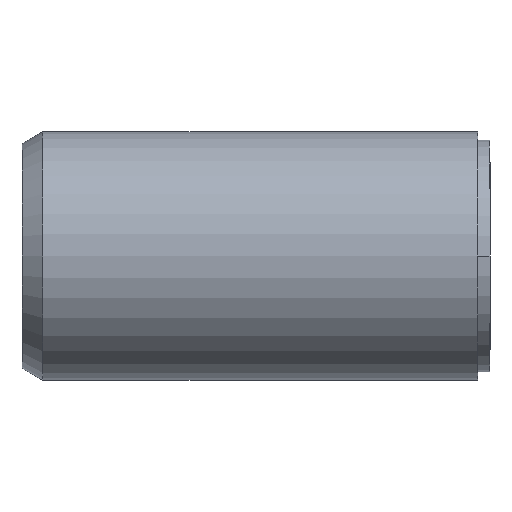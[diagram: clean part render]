
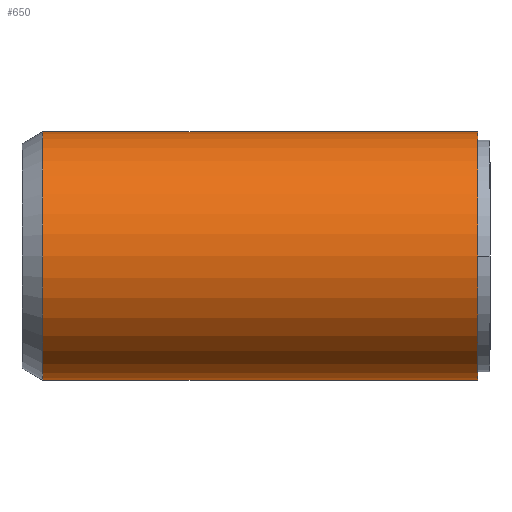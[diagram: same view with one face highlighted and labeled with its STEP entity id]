
A CAD part, front view. The second image highlights one B-rep face of the part: STEP entity #650.
In plain terms, the highlighted cylindrical face has radius 30 mm (diameter 60 mm), a partial arc.
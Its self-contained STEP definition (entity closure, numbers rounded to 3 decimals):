
#118 = EDGE_CURVE ( 'NONE', #729, #1319, #681, .T. ) ;
#278 = DIRECTION ( 'NONE',  ( 0., 0., 1. ) ) ;
#566 = DIRECTION ( 'NONE',  ( -1., 0., 0. ) ) ;
#573 = AXIS2_PLACEMENT_3D ( 'NONE', #3634, #566, #3340 ) ;
#639 = VECTOR ( 'NONE', #1216, 1000. ) ;
#646 = CARTESIAN_POINT ( 'NONE',  ( 110., 0., -30. ) ) ;
#650 = ADVANCED_FACE ( 'NONE', ( #2079 ), #3630, .T. ) ;
#681 = CIRCLE ( 'NONE', #573, 30. ) ;
#729 = VERTEX_POINT ( 'NONE', #646 ) ;
#819 = VERTEX_POINT ( 'NONE', #1863 ) ;
#935 = VERTEX_POINT ( 'NONE', #3222 ) ;
#1037 = CARTESIAN_POINT ( 'NONE',  ( 5., 0., 0. ) ) ;
#1216 = DIRECTION ( 'NONE',  ( -1., 0., 0. ) ) ;
#1274 = CARTESIAN_POINT ( 'NONE',  ( 0., 0., 30. ) ) ;
#1294 = LINE ( 'NONE', #1274, #4013 ) ;
#1319 = VERTEX_POINT ( 'NONE', #4007 ) ;
#1359 = ORIENTED_EDGE ( 'NONE', *, *, #2336, .T. ) ;
#1394 = AXIS2_PLACEMENT_3D ( 'NONE', #3072, #3050, #278 ) ;
#1532 = AXIS2_PLACEMENT_3D ( 'NONE', #1037, #2238, #3200 ) ;
#1579 = ORIENTED_EDGE ( 'NONE', *, *, #3064, .F. ) ;
#1646 = ORIENTED_EDGE ( 'NONE', *, *, #118, .T. ) ;
#1822 = EDGE_CURVE ( 'NONE', #819, #935, #3355, .T. ) ;
#1863 = CARTESIAN_POINT ( 'NONE',  ( 5., 0., 30. ) ) ;
#2079 = FACE_OUTER_BOUND ( 'NONE', #2615, .T. ) ;
#2238 = DIRECTION ( 'NONE',  ( 1., 0., 0. ) ) ;
#2336 = EDGE_CURVE ( 'NONE', #1319, #819, #1294, .T. ) ;
#2578 = DIRECTION ( 'NONE',  ( -1., 0., 0. ) ) ;
#2615 = EDGE_LOOP ( 'NONE', ( #1579, #1646, #1359, #2919 ) ) ;
#2919 = ORIENTED_EDGE ( 'NONE', *, *, #1822, .T. ) ;
#3050 = DIRECTION ( 'NONE',  ( -1., 0., 0. ) ) ;
#3064 = EDGE_CURVE ( 'NONE', #729, #935, #3670, .T. ) ;
#3072 = CARTESIAN_POINT ( 'NONE',  ( 0., 0., 0. ) ) ;
#3200 = DIRECTION ( 'NONE',  ( 0., 0., -1. ) ) ;
#3222 = CARTESIAN_POINT ( 'NONE',  ( 5., 0., -30. ) ) ;
#3340 = DIRECTION ( 'NONE',  ( 0., 0., 1. ) ) ;
#3355 = CIRCLE ( 'NONE', #1532, 30. ) ;
#3630 = CYLINDRICAL_SURFACE ( 'NONE', #1394, 30. ) ;
#3634 = CARTESIAN_POINT ( 'NONE',  ( 110., 0., 0. ) ) ;
#3670 = LINE ( 'NONE', #3710, #639 ) ;
#3710 = CARTESIAN_POINT ( 'NONE',  ( 0., 0., -30. ) ) ;
#4007 = CARTESIAN_POINT ( 'NONE',  ( 110., 0., 30. ) ) ;
#4013 = VECTOR ( 'NONE', #2578, 1000. ) ;
